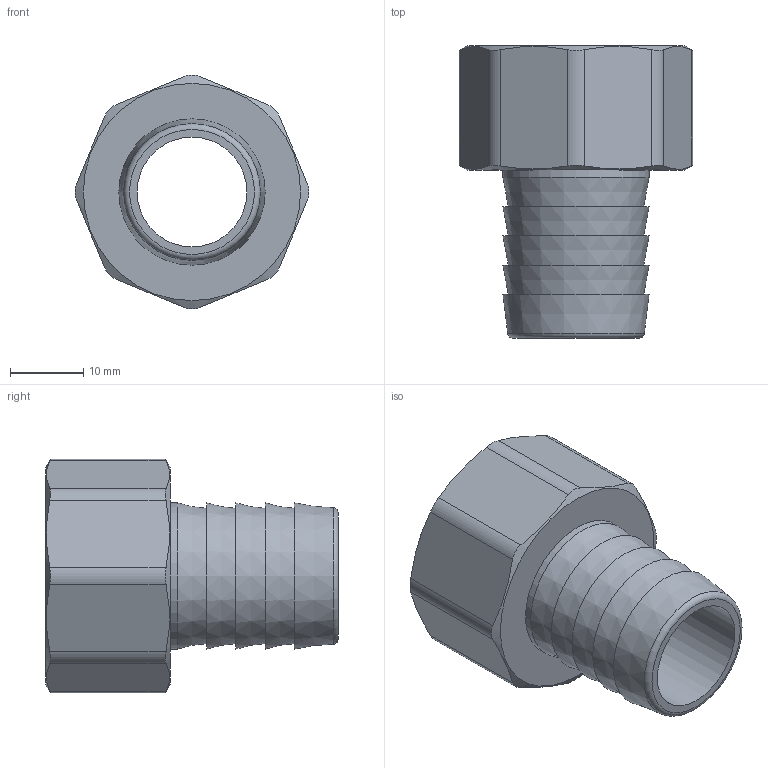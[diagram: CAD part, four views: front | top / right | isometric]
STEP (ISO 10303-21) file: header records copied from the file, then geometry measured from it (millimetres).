
FILE_DESCRIPTION(('STEP AP203'), '1');
FILE_NAME('覆.753154.017 - VTr.654.N.0520 幄鼭歑', '2024-08-02T07:37:54', ('Boss'), (''), 'C3D Converter', 'C3D Toolkit', '');
FILE_SCHEMA(('CONFIG_CONTROL_DESIGN'));
Length unit declared in the file: millimetre
Products named in the file (1): ВР.753154.017
Bounding box: 31.98 x 40 x 31.98 mm (x, y, z)
Volume: 8388.5 mm3; surface area: 6480.7 mm2
Topology: 1 solids, 1 shells, 37 faces, 83 edges, 54 vertices
Faces by surface type: plane 16, cylinder 11, cone 9, torus 1
Full cylindrical faces by diameter (mm): 15 x1, 20 x1, 24.118 x1
Entity records: 2091 total; most frequent: CARTESIAN_POINT 1326, ORIENTED_EDGE 140, DIRECTION 132, EDGE_CURVE 70, AXIS2_PLACEMENT_3D 58, EDGE_LOOP 58, VERTEX_POINT 54, ADVANCED_FACE 37
